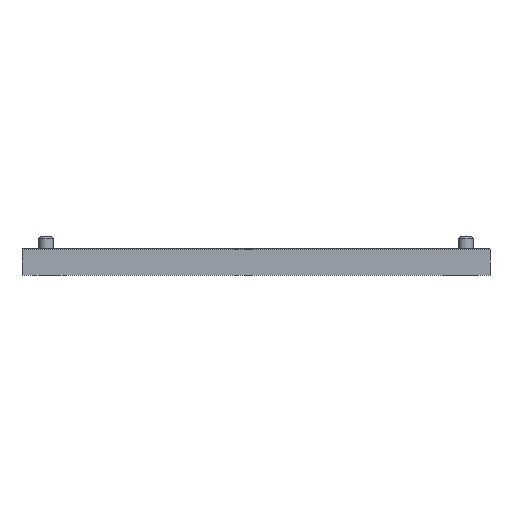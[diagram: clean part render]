
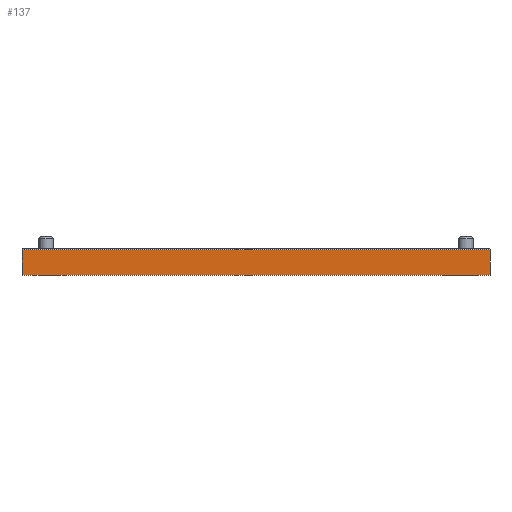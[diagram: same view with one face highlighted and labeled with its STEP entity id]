
A CAD part, front view. The second image highlights one B-rep face of the part: STEP entity #137.
In plain terms, the highlighted planar face has unit normal (0, -1, 0).
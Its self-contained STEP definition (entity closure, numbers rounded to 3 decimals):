
#21 = EDGE_CURVE('',#22,#24,#26,.T.);
#22 = VERTEX_POINT('',#23);
#23 = CARTESIAN_POINT('',(-48.5,-51.,0.));
#24 = VERTEX_POINT('',#25);
#25 = CARTESIAN_POINT('',(-48.5,-51.,5.3));
#26 = SURFACE_CURVE('',#27,(#31,#43),.PCURVE_S1.);
#27 = LINE('',#28,#29);
#28 = CARTESIAN_POINT('',(-48.5,-51.,0.));
#29 = VECTOR('',#30,1.);
#30 = DIRECTION('',(0.,0.,1.));
#31 = PCURVE('',#32,#37);
#32 = PLANE('',#33);
#33 = AXIS2_PLACEMENT_3D('',#34,#35,#36);
#34 = CARTESIAN_POINT('',(-48.5,-51.,0.));
#35 = DIRECTION('',(1.,0.,0.));
#36 = DIRECTION('',(0.,0.,1.));
#37 = DEFINITIONAL_REPRESENTATION('',(#38),#42);
#38 = LINE('',#39,#40);
#39 = CARTESIAN_POINT('',(0.,0.));
#40 = VECTOR('',#41,1.);
#41 = DIRECTION('',(1.,0.));
#42 = ( GEOMETRIC_REPRESENTATION_CONTEXT(2) 
PARAMETRIC_REPRESENTATION_CONTEXT() REPRESENTATION_CONTEXT('2D SPACE',''
  ) );
#43 = PCURVE('',#44,#49);
#44 = PLANE('',#45);
#45 = AXIS2_PLACEMENT_3D('',#46,#47,#48);
#46 = CARTESIAN_POINT('',(-48.5,-51.,0.));
#47 = DIRECTION('',(0.,1.,0.));
#48 = DIRECTION('',(0.,0.,1.));
#49 = DEFINITIONAL_REPRESENTATION('',(#50),#54);
#50 = LINE('',#51,#52);
#51 = CARTESIAN_POINT('',(0.,0.));
#52 = VECTOR('',#53,1.);
#53 = DIRECTION('',(1.,0.));
#54 = ( GEOMETRIC_REPRESENTATION_CONTEXT(2) 
PARAMETRIC_REPRESENTATION_CONTEXT() REPRESENTATION_CONTEXT('2D SPACE',''
  ) );
#72 = PLANE('',#73);
#73 = AXIS2_PLACEMENT_3D('',#74,#75,#76);
#74 = CARTESIAN_POINT('',(-48.5,-51.,0.));
#75 = DIRECTION('',(0.,0.,1.));
#76 = DIRECTION('',(1.,0.,0.));
#137 = ADVANCED_FACE('',(#138),#44,.F.);
#138 = FACE_BOUND('',#139,.F.);
#139 = EDGE_LOOP('',(#140,#170,#191,#192));
#140 = ORIENTED_EDGE('',*,*,#141,.F.);
#141 = EDGE_CURVE('',#142,#144,#146,.T.);
#142 = VERTEX_POINT('',#143);
#143 = CARTESIAN_POINT('',(48.5,-51.,0.));
#144 = VERTEX_POINT('',#145);
#145 = CARTESIAN_POINT('',(48.5,-51.,5.3));
#146 = SURFACE_CURVE('',#147,(#151,#158),.PCURVE_S1.);
#147 = LINE('',#148,#149);
#148 = CARTESIAN_POINT('',(48.5,-51.,0.));
#149 = VECTOR('',#150,1.);
#150 = DIRECTION('',(0.,0.,1.));
#151 = PCURVE('',#44,#152);
#152 = DEFINITIONAL_REPRESENTATION('',(#153),#157);
#153 = LINE('',#154,#155);
#154 = CARTESIAN_POINT('',(0.,97.));
#155 = VECTOR('',#156,1.);
#156 = DIRECTION('',(1.,0.));
#157 = ( GEOMETRIC_REPRESENTATION_CONTEXT(2) 
PARAMETRIC_REPRESENTATION_CONTEXT() REPRESENTATION_CONTEXT('2D SPACE',''
  ) );
#158 = PCURVE('',#159,#164);
#159 = PLANE('',#160);
#160 = AXIS2_PLACEMENT_3D('',#161,#162,#163);
#161 = CARTESIAN_POINT('',(48.5,-51.,0.));
#162 = DIRECTION('',(1.,0.,0.));
#163 = DIRECTION('',(0.,0.,1.));
#164 = DEFINITIONAL_REPRESENTATION('',(#165),#169);
#165 = LINE('',#166,#167);
#166 = CARTESIAN_POINT('',(0.,0.));
#167 = VECTOR('',#168,1.);
#168 = DIRECTION('',(1.,0.));
#169 = ( GEOMETRIC_REPRESENTATION_CONTEXT(2) 
PARAMETRIC_REPRESENTATION_CONTEXT() REPRESENTATION_CONTEXT('2D SPACE',''
  ) );
#170 = ORIENTED_EDGE('',*,*,#171,.F.);
#171 = EDGE_CURVE('',#22,#142,#172,.T.);
#172 = SURFACE_CURVE('',#173,(#177,#184),.PCURVE_S1.);
#173 = LINE('',#174,#175);
#174 = CARTESIAN_POINT('',(-48.5,-51.,0.));
#175 = VECTOR('',#176,1.);
#176 = DIRECTION('',(1.,0.,0.));
#177 = PCURVE('',#44,#178);
#178 = DEFINITIONAL_REPRESENTATION('',(#179),#183);
#179 = LINE('',#180,#181);
#180 = CARTESIAN_POINT('',(0.,0.));
#181 = VECTOR('',#182,1.);
#182 = DIRECTION('',(0.,1.));
#183 = ( GEOMETRIC_REPRESENTATION_CONTEXT(2) 
PARAMETRIC_REPRESENTATION_CONTEXT() REPRESENTATION_CONTEXT('2D SPACE',''
  ) );
#184 = PCURVE('',#72,#185);
#185 = DEFINITIONAL_REPRESENTATION('',(#186),#190);
#186 = LINE('',#187,#188);
#187 = CARTESIAN_POINT('',(0.,0.));
#188 = VECTOR('',#189,1.);
#189 = DIRECTION('',(1.,0.));
#190 = ( GEOMETRIC_REPRESENTATION_CONTEXT(2) 
PARAMETRIC_REPRESENTATION_CONTEXT() REPRESENTATION_CONTEXT('2D SPACE',''
  ) );
#191 = ORIENTED_EDGE('',*,*,#21,.T.);
#192 = ORIENTED_EDGE('',*,*,#193,.T.);
#193 = EDGE_CURVE('',#24,#144,#194,.T.);
#194 = SURFACE_CURVE('',#195,(#199,#206),.PCURVE_S1.);
#195 = LINE('',#196,#197);
#196 = CARTESIAN_POINT('',(-48.5,-51.,5.3));
#197 = VECTOR('',#198,1.);
#198 = DIRECTION('',(1.,0.,0.));
#199 = PCURVE('',#44,#200);
#200 = DEFINITIONAL_REPRESENTATION('',(#201),#205);
#201 = LINE('',#202,#203);
#202 = CARTESIAN_POINT('',(5.3,0.));
#203 = VECTOR('',#204,1.);
#204 = DIRECTION('',(0.,1.));
#205 = ( GEOMETRIC_REPRESENTATION_CONTEXT(2) 
PARAMETRIC_REPRESENTATION_CONTEXT() REPRESENTATION_CONTEXT('2D SPACE',''
  ) );
#206 = PCURVE('',#207,#212);
#207 = PLANE('',#208);
#208 = AXIS2_PLACEMENT_3D('',#209,#210,#211);
#209 = CARTESIAN_POINT('',(-48.5,-50.9,5.4));
#210 = DIRECTION('',(0.,0.707,-0.707)
  );
#211 = DIRECTION('',(-1.,0.,0.));
#212 = DEFINITIONAL_REPRESENTATION('',(#213),#217);
#213 = LINE('',#214,#215);
#214 = CARTESIAN_POINT('',(-0.,-0.141));
#215 = VECTOR('',#216,1.);
#216 = DIRECTION('',(-1.,0.));
#217 = ( GEOMETRIC_REPRESENTATION_CONTEXT(2) 
PARAMETRIC_REPRESENTATION_CONTEXT() REPRESENTATION_CONTEXT('2D SPACE',''
  ) );
